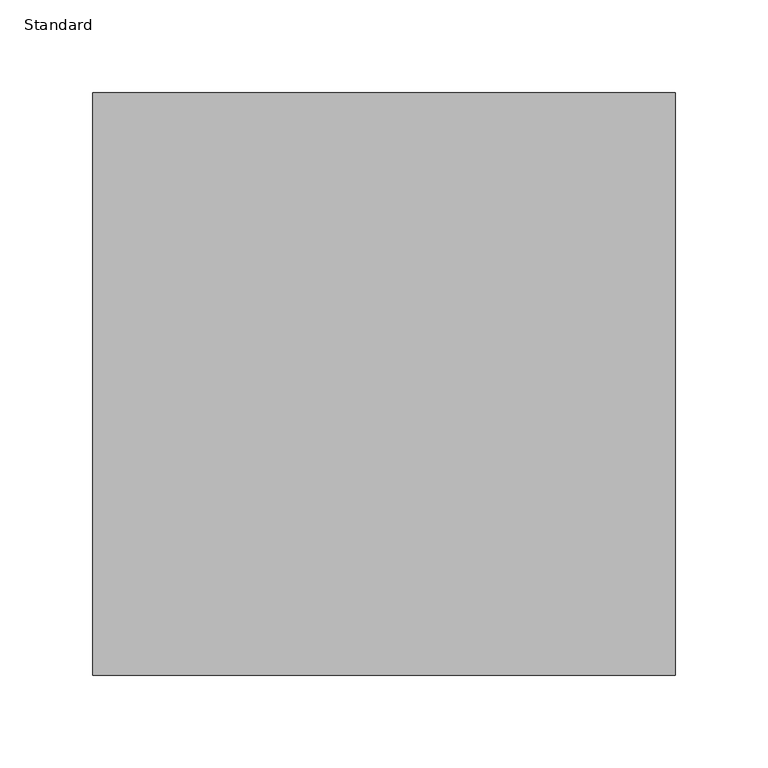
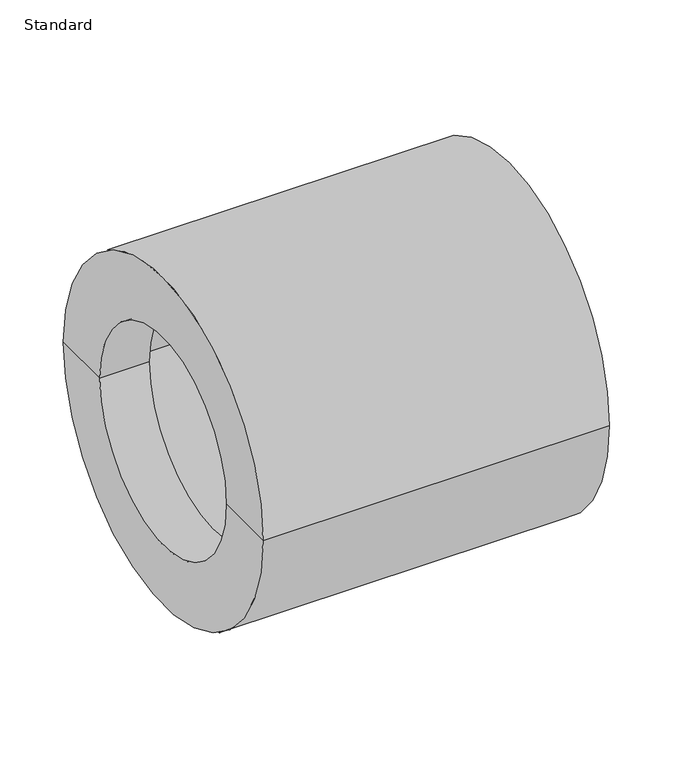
"""IFC4 building model written with IfcOpenShell, lengths in millimetres: pipe fitting geometry, Durapipe_PipeFitting_PVC_ReducingBush : Standard."""

from ifc_helpers import new_model, si_unit, frame, origin, place, context, project, spatial, polyline, circle_curve, source, transform, mapped, element, save
from ifc_brep_helpers import plane_surface, cylinder_surface, revolved_surface, advanced_brep


def standard_f11ee998(model_context):
    return source(origin(), model_context, "Body", "AdvancedBrep", [
        advanced_brep(
        [(-45.0, -100.0, 0.0), (-45.0, 100.0, 0.0), (-45.0, 157.5, 0.0), (-45.0, -157.5, 0.0), (0.0, -100.0, 0.0), (0.0, 100.0, 0.0), (0.0, -112.5, 0.0), (0.0, 112.5, 0.0), (270.0, -112.5, 0.0), (270.0, 112.5, 0.0), (270.0, -157.5, 0.0), (270.0, 157.5, 0.0)],
        [
            (0, 1, circle_curve(frame((-45.0, 0.0, 0.0), z_axis=(1.0, 0.0, 0.0), x_axis=(0.0, 1.0, 0.0)), 100.0)),
            (1, 2),
            (2, 3, circle_curve(frame((-45.0, 0.0, 0.0), z_axis=(-1.0, 0.0, 0.0), x_axis=(0.0, 1.0, 0.0)), 157.5)),
            (3, 0),
            (1, 0, circle_curve(frame((-45.0, 0.0, 0.0), z_axis=(1.0, 0.0, 0.0), x_axis=(0.0, 1.0, 0.0)), 100.0)),
            (3, 2, circle_curve(frame((-45.0, 0.0, 0.0), z_axis=(-1.0, 0.0, 0.0), x_axis=(0.0, 1.0, 0.0)), 157.5)),
            (4, 5, circle_curve(frame((0.0, 0.0, 0.0), z_axis=(1.0, 0.0, 0.0), x_axis=(0.0, 1.0, 0.0)), 100.0)),
            (5, 1),
            (0, 4),
            (5, 4, circle_curve(frame((0.0, 0.0, 0.0), z_axis=(1.0, 0.0, 0.0), x_axis=(0.0, 1.0, 0.0)), 100.0)),
            (6, 7, circle_curve(frame((0.0, 0.0, 0.0), z_axis=(1.0, 0.0, 0.0), x_axis=(0.0, 1.0, 0.0)), 112.5)),
            (7, 5),
            (4, 6),
            (7, 6, circle_curve(frame((0.0, 0.0, 0.0), z_axis=(1.0, 0.0, 0.0), x_axis=(0.0, 1.0, 0.0)), 112.5)),
            (8, 9, circle_curve(frame((270.0, 0.0, 0.0), z_axis=(1.0, 0.0, 0.0), x_axis=(0.0, 1.0, 0.0)), 112.5)),
            (9, 7),
            (6, 8),
            (9, 8, circle_curve(frame((270.0, 0.0, 0.0), z_axis=(1.0, 0.0, 0.0), x_axis=(0.0, 1.0, 0.0)), 112.5)),
            (10, 11, circle_curve(frame((270.0, 0.0, 0.0), z_axis=(1.0, 0.0, 0.0), x_axis=(0.0, 1.0, 0.0)), 157.5)),
            (11, 9),
            (8, 10),
            (11, 10, circle_curve(frame((270.0, 0.0, 0.0), z_axis=(1.0, 0.0, 0.0), x_axis=(0.0, 1.0, 0.0)), 157.5)),
            (2, 11),
            (10, 3),
        ],
        [
            plane_surface(frame((-45.0, 0.0, 0.0), z_axis=(-1.0, 0.0, 0.0), x_axis=(0.0, 1.0, 0.0))),
            revolved_surface(polyline([(-45.0, 100.0, 0.0), (0.0, 100.0, 0.0)]), (2256.0, 0.0, 0.0), (-1.0, 0.0, 0.0)),
            plane_surface(frame((0.0, 0.0, 0.0), z_axis=(1.0, 0.0, 0.0), x_axis=(0.0, 1.0, 0.0))),
            revolved_surface(polyline([(0.0, 112.5, 0.0), (270.0, 112.5, 0.0)]), (2256.0, 0.0, 0.0), (-1.0, 0.0, 0.0)),
            plane_surface(frame((270.0, 0.0, 0.0), z_axis=(1.0, 0.0, 0.0), x_axis=(0.0, 1.0, 0.0))),
            cylinder_surface(frame((2256.0, 0.0, 0.0), z_axis=(-1.0, 0.0, 0.0), x_axis=(0.0, 1.0, 0.0)), 157.5),
        ],
        [
            (0, [[1, 2, 3, 4]]),
            (0, [[5, -4, 6, -2]]),
            (1, [[7, 8, -1, 9]]),
            (1, [[10, -9, -5, -8]]),
            (2, [[11, 12, -7, 13]]),
            (2, [[14, -13, -10, -12]]),
            (3, [[15, 16, -11, 17]]),
            (3, [[18, -17, -14, -16]]),
            (4, [[19, 20, -15, 21]]),
            (4, [[22, -21, -18, -20]]),
            (5, [[-3, 23, -19, 24]]),
            (5, [[-6, -24, -22, -23]]),
        ],
    ),
    ])


if __name__ == "__main__":
    model = new_model("IFC4")
    model_context = context("Model", 3, world=origin())
    ifc_project = project(units=[si_unit("LENGTHUNIT", "METRE", prefix="MILLI")], contexts=[model_context])
    site = spatial("IfcSite", under=ifc_project)
    building = spatial("IfcBuilding", under=site)
    placement = place(None, origin())
    standard_shape = standard_f11ee998(model_context)
    element("IfcPipeFitting", 1, ObjectType="Durapipe_PipeFitting_PVC_ReducingBush : Standard", at=placement, inside=building, context=model_context, shape_type="MappedRepresentation", body=[
        mapped(standard_shape, transform((0.0, 0.0, 0.0), x_axis=(1.0, 0.0, 0.0), y_axis=(0.0, 1.0, 0.0), z_axis=(0.0, 0.0, 1.0))),
    ])
    save(model, "model.ifc")
